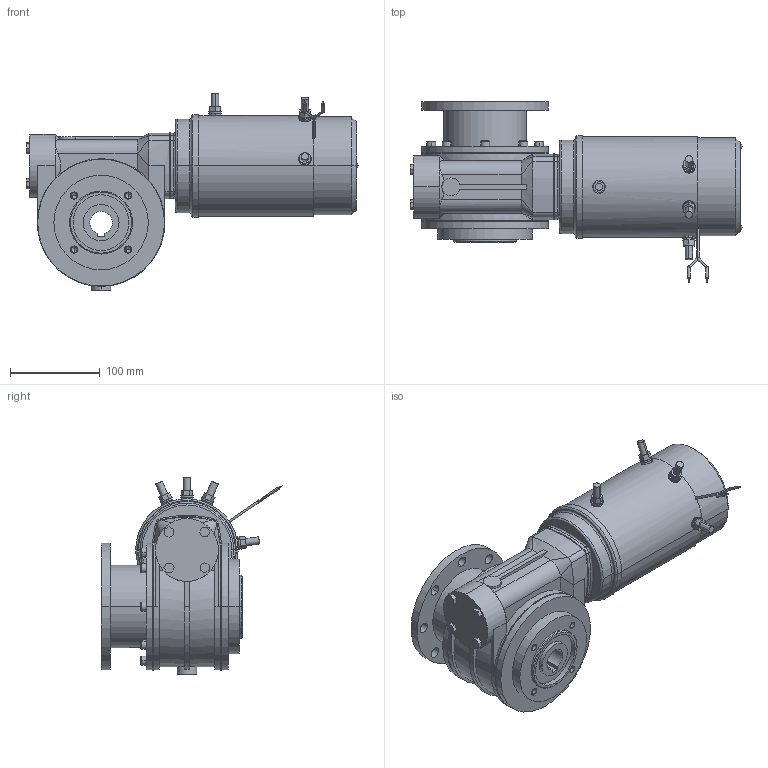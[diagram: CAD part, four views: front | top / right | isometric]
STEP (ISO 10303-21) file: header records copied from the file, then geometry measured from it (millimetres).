
FILE_DESCRIPTION((''),'2;1');
FILE_NAME('C4-5_MOTORGEARBOX','2010-02-01T',('MDance'),(''),'PRO/ENGINEER BY PARAMETRIC TECHNOLOGY CORPORATION, 2007030','PRO/ENGINEER BY PARAMETRIC TECHNOLOGY CORPORATION, 2007030','');
FILE_SCHEMA(('CONFIG_CONTROL_DESIGN'));
Length unit declared in the file: millimetre
Products named in the file (1): C4-5_MOTORGEARBOX
Bounding box: 369.22 x 201.31 x 220 mm (x, y, z)
Volume: 3689220.4 mm3; surface area: 295459 mm2
Topology: 1 solids, 12 shells, 614 faces, 1484 edges, 954 vertices
Faces by surface type: plane 281, cylinder 263, torus 38, cone 22, sphere 5, bspline 5
Entity records: 18494 total; most frequent: CARTESIAN_POINT 3716, DIRECTION 3231, ORIENTED_EDGE 2906, EDGE_CURVE 1465, AXIS2_PLACEMENT_3D 1223, VERTEX_POINT 954, VECTOR 785, LINE 785
